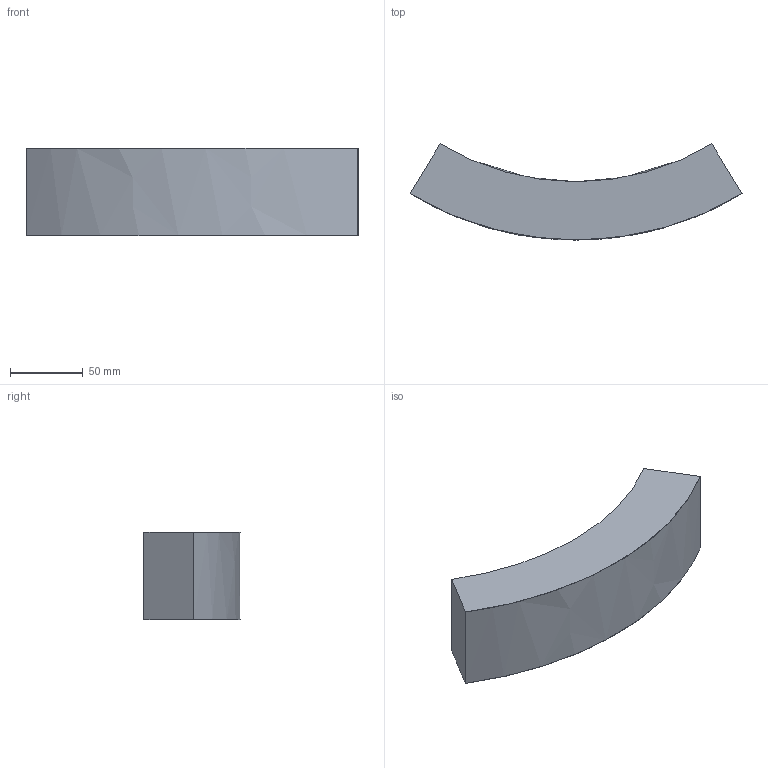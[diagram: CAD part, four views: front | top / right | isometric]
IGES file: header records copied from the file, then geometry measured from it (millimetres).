
Start section:  PTC IGES file: d160-1600_fixbloc_d180_pk-01.igs
Global section: file name: d160-1600_fixbloc_d180_pk-01.igs; native system: Creo Parametric by PTC Inc.; preprocessor: 2019030; author: demmerls; organization: Unknown; date: 20200925.140224; units: millimetre
Bounding box: 227.83 x 66.01 x 60 mm (x, y, z)
Surface area: 48342.2 mm2 (no closed solid volume)
Topology: 0 solids, 0 shells, 6 faces, 24 edges, 24 vertices
Faces by surface type: bspline 6
